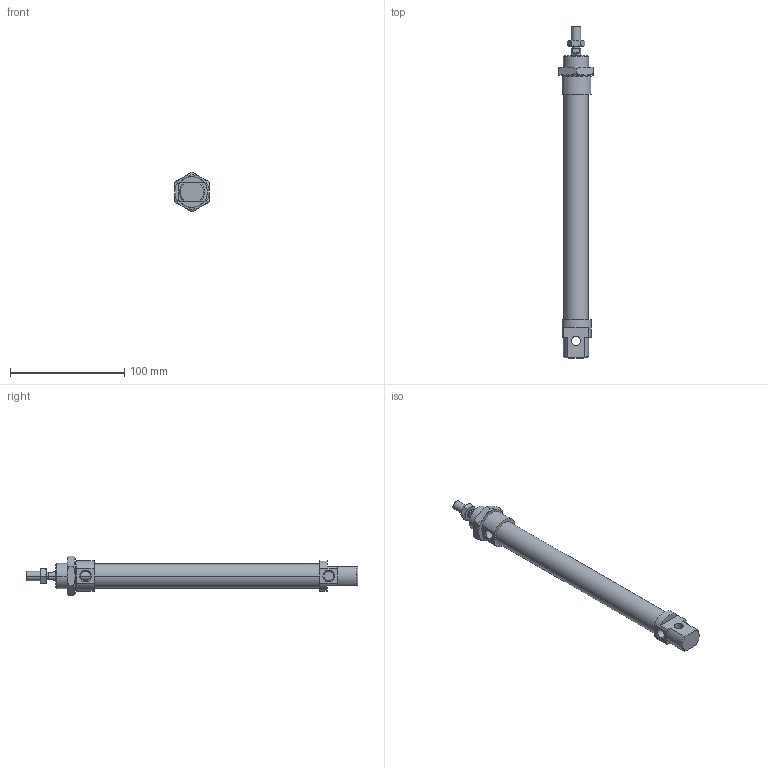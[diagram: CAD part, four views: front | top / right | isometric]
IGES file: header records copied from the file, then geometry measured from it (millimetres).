
Global section: file name: No Iges File Name specified; native system: Autodesk Inventor 2010; preprocessor: AutoDesk Inventor Iges Exporter R2010; author: rivolro1; date: 20090604.093306; units: millimetre
Bounding box: 30 x 290 x 34.64 mm (x, y, z)
Volume: 100835 mm3; surface area: 33230.2 mm2
Topology: 4 solids, 4 shells, 110 faces, 249 edges, 152 vertices
Faces by surface type: plane 41, cone 28, bspline 21, cylinder 14, revolution 6
